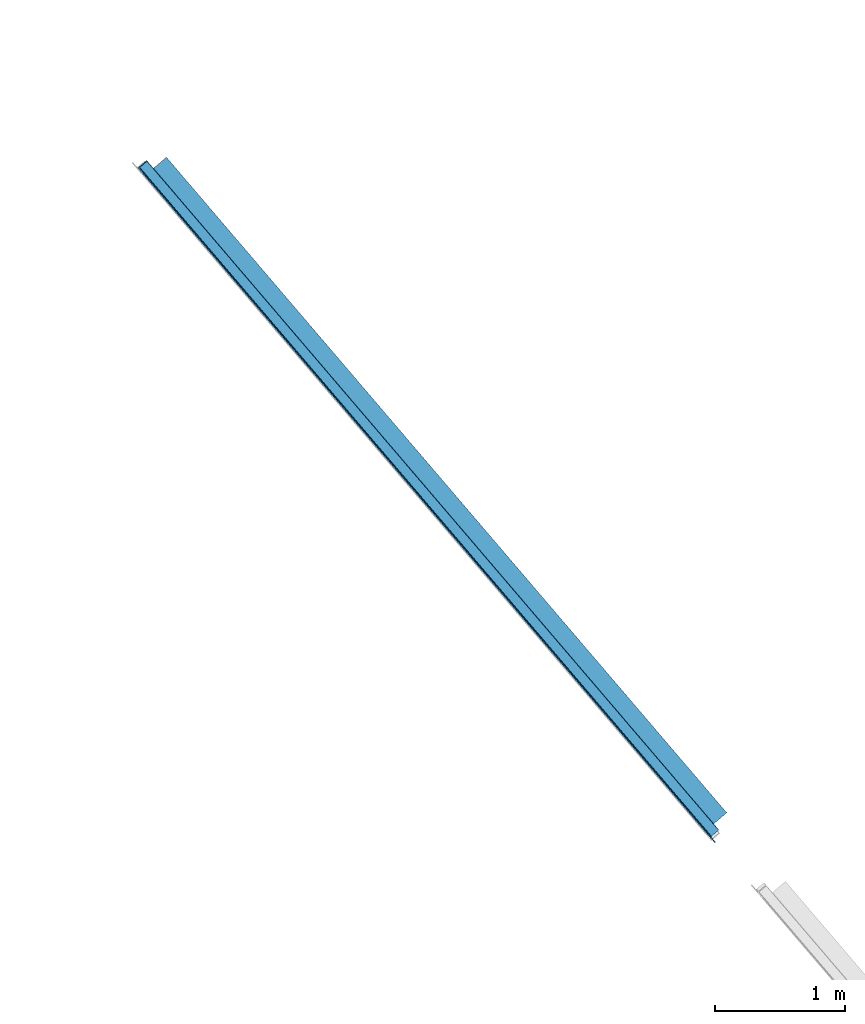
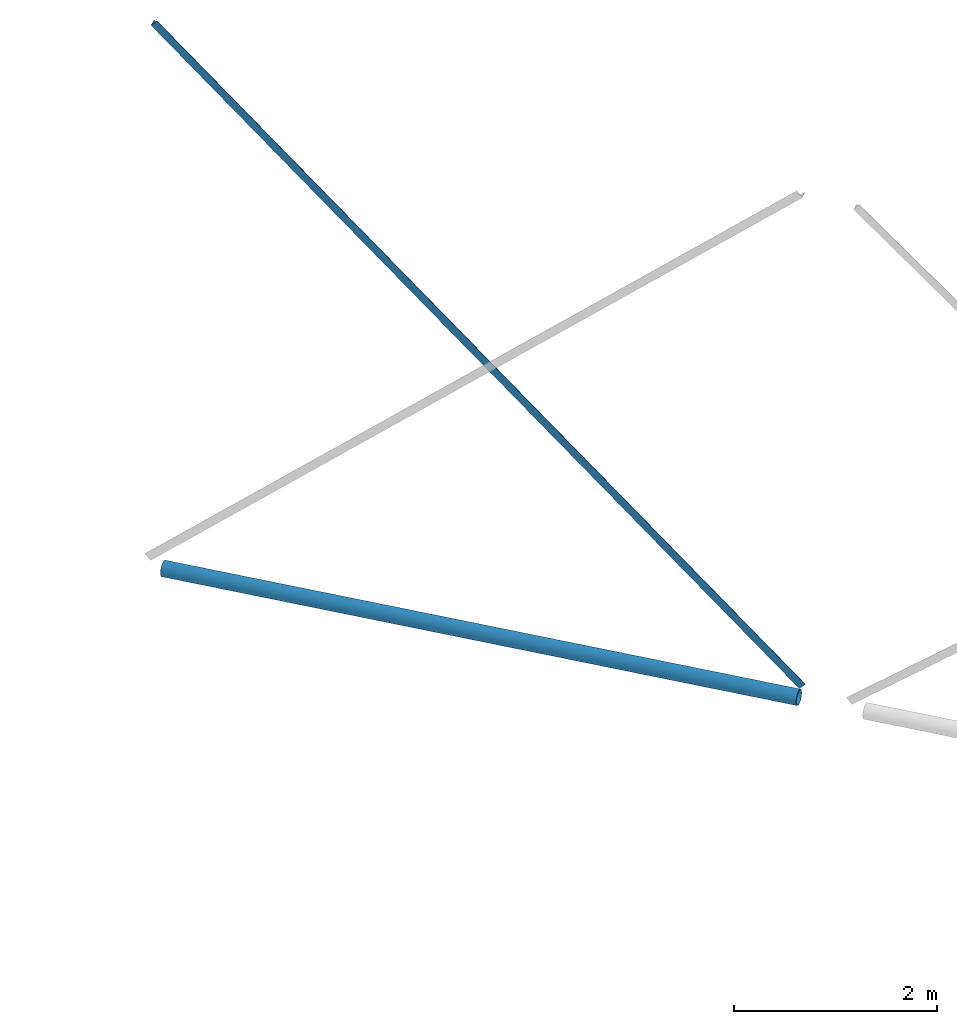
# One storey, part 6 of 6: 2 beams.
"""IFC2X3 building model written with IfcOpenShell, lengths in millimetres."""

from ifc_helpers import new_model, entity, si_unit, converted_unit, derived_unit, direction, frame, frame_2d, origin, origin_2d_with_axis, place, context, subcontext, project, spatial, polyline, circle_curve, parameter, trimmed, segment, composite_curve, hollow_circle, outline, extrude, material, type_object, element, save


model = new_model("IFC2X3")

# Units and contexts
model_context = context("Model", 3, precision=0.01, world=origin(), true_north=direction((6.123031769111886e-17, 1.0)))
body_context = subcontext(model_context, "Body", "Model", "MODEL_VIEW")
ifc_project = project(units=[si_unit("LENGTHUNIT", "METRE", prefix="MILLI"), si_unit("AREAUNIT", "SQUARE_METRE"), si_unit("VOLUMEUNIT", "CUBIC_METRE"), converted_unit("PLANEANGLEUNIT", "DEGREE", entity("IfcRatioMeasure", 0.017453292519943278), si_unit("PLANEANGLEUNIT", "RADIAN"), dimensions=[0, 0, 0, 0, 0, 0, 0]), si_unit("MASSUNIT", "GRAM", prefix="KILO"), derived_unit("MASSDENSITYUNIT", [(si_unit("MASSUNIT", "GRAM", prefix="KILO"), 1), (si_unit("LENGTHUNIT", "METRE"), -3)]), derived_unit("MOMENTOFINERTIAUNIT", [(si_unit("LENGTHUNIT", "METRE"), 4)]), si_unit("TIMEUNIT", "SECOND"), si_unit("FREQUENCYUNIT", "HERTZ"), si_unit("THERMODYNAMICTEMPERATUREUNIT", "DEGREE_CELSIUS"), derived_unit("THERMALTRANSMITTANCEUNIT", [(si_unit("MASSUNIT", "GRAM", prefix="KILO"), 1), (si_unit("THERMODYNAMICTEMPERATUREUNIT", "KELVIN"), -1), (si_unit("TIMEUNIT", "SECOND"), -3)]), derived_unit("VOLUMETRICFLOWRATEUNIT", [(si_unit("LENGTHUNIT", "METRE"), 3), (si_unit("TIMEUNIT", "SECOND"), -1)]), derived_unit("MASSFLOWRATEUNIT", [(si_unit("MASSUNIT", "GRAM", prefix="KILO"), 1), (si_unit("TIMEUNIT", "SECOND"), -1)]), derived_unit("ROTATIONALFREQUENCYUNIT", [(si_unit("TIMEUNIT", "SECOND"), -1)]), si_unit("ELECTRICCURRENTUNIT", "AMPERE"), si_unit("ELECTRICVOLTAGEUNIT", "VOLT"), si_unit("POWERUNIT", "WATT"), si_unit("FORCEUNIT", "NEWTON", prefix="KILO"), si_unit("ILLUMINANCEUNIT", "LUX"), si_unit("LUMINOUSFLUXUNIT", "LUMEN"), si_unit("LUMINOUSINTENSITYUNIT", "CANDELA"), derived_unit("USERDEFINED", [(si_unit("MASSUNIT", "GRAM", prefix="KILO"), -1), (si_unit("LENGTHUNIT", "METRE"), -2), (si_unit("TIMEUNIT", "SECOND"), 3), (si_unit("LUMINOUSFLUXUNIT", "LUMEN"), 1)]), derived_unit("SOUNDPOWERUNIT", [(si_unit("MASSUNIT", "GRAM", prefix="KILO"), 1), (si_unit("LENGTHUNIT", "METRE"), 2), (si_unit("TIMEUNIT", "SECOND"), -3)]), derived_unit("LINEARVELOCITYUNIT", [(si_unit("LENGTHUNIT", "METRE"), 1), (si_unit("TIMEUNIT", "SECOND"), -1)]), si_unit("PRESSUREUNIT", "PASCAL"), derived_unit("USERDEFINED", [(si_unit("LENGTHUNIT", "METRE"), -2), (si_unit("MASSUNIT", "GRAM", prefix="KILO"), 1), (si_unit("TIMEUNIT", "SECOND"), -2)]), derived_unit("LINEARFORCEUNIT", [(si_unit("MASSUNIT", "GRAM", prefix="KILO"), 1), (si_unit("LENGTHUNIT", "METRE"), 1), (si_unit("TIMEUNIT", "SECOND"), -2), (si_unit("LENGTHUNIT", "METRE"), -1)]), derived_unit("PLANARFORCEUNIT", [(si_unit("MASSUNIT", "GRAM", prefix="KILO"), 1), (si_unit("LENGTHUNIT", "METRE"), 1), (si_unit("TIMEUNIT", "SECOND"), -2), (si_unit("LENGTHUNIT", "METRE"), -2)])], contexts=[model_context])

# Site, building, storey
site_placement = place(None, frame((962.4174930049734, -6014.433753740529, 0.0), z_axis=(0.0, 0.0, 1.0), x_axis=(0.7601792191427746, 0.649713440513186, 0.0)))
site = spatial("IfcSite", under=ifc_project, at=site_placement, Name="Default", CompositionType="ELEMENT")
building_placement = place(site_placement, origin())
building = spatial("IfcBuilding", under=site, at=building_placement, CompositionType="ELEMENT")
storey_placement = place(building_placement, frame((0.0, 0.0, 8925.0)))
storey = spatial("IfcBuildingStorey", under=building, at=storey_placement, Name="TOP OF PLANT ROOM", CompositionType="ELEMENT", Elevation=8925.000000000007)

# Beams
ifc_material = material(Name="Metal - Steel - 300 MPa")
beam_type_1 = type_object("IfcBeamType", Name="ADSK_AU_CHS-Circular Hollow Sections (AS 1163_C350):168.3x6.4CHS", PredefinedType="NOTDEFINED")
beam_1_placement = place(storey_placement, frame((185792.0602047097, -11387.178082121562, -3085.8499999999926), z_axis=(0.0, 0.0, 1.0), x_axis=(0.0, 1.0, 0.0)))
element("IfcBeam", 1, at=beam_1_placement, inside=storey, type_object=beam_type_1, material=ifc_material, Name="ADSK_AU_CHS-Circular Hollow Sections (AS 1163_C350):168.3x6.4CHS", ObjectType="ADSK_AU_CHS-Circular Hollow Sections (AS 1163_C350):168.3x6.4CHS", context=body_context, shape_type="SweptSolid", body=[
    extrude(hollow_circle(Radius=84.15000000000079, WallThickness=6.4000000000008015, at=origin_2d_with_axis()), frame((513.9374999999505, 0.0, -84.15000000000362), z_axis=(1.0, 0.0, 0.0), x_axis=(0.0, 1.0, 0.0)), (0.0, 0.0, 1.0), 6657.099999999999),
])
beam_type_2 = type_object("IfcBeamType", Name="ADSK_AU_EA-Equal Angles (AS 3679_1):90x90x10EA", PredefinedType="NOTDEFINED")
beam_2_placement = place(storey_placement, frame((185679.26020470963, -4138.804676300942, 3570.3059944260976), z_axis=(0.0, -0.6864414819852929, 0.7271850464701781), x_axis=(0.0, -0.7271850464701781, -0.6864414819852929)))
element("IfcBeam", 2, at=beam_2_placement, inside=storey, type_object=beam_type_2, material=ifc_material, Name="ADSK_AU_EA-Equal Angles (AS 3679_1):90x90x10EA", ObjectType="ADSK_AU_EA-Equal Angles (AS 3679_1):90x90x10EA", context=body_context, shape_type="SweptSolid", body=[
    extrude(outline(composite_curve([segment(polyline([(-55.777777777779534, -34.222222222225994), (34.22222222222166, -34.222222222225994)]), True, "CONTINUOUS"), segment(polyline([(34.22222222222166, -34.222222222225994), (34.22222222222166, 55.777777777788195)]), True, "CONTINUOUS"), segment(polyline([(34.222222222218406, 55.777777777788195), (29.222222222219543, 55.777777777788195)]), True, "CONTINUOUS"), segment(trimmed(circle_curve(frame_2d((29.222222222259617, 50.77777777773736), x_axis=(0.0, 1.0)), 5.000000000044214), [parameter(0.0)], [parameter(89.99999999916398)], True, "PARAMETER"), True, "CONTINUOUS"), segment(polyline([(24.22222222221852, 50.77777777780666), (24.22222222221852, -16.222222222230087)]), True, "CONTINUOUS"), segment(trimmed(circle_curve(frame_2d((16.22222222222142, -16.222222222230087), x_axis=(1.0, 0.0)), 7.999999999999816), [parameter(269.9999999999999)], [parameter(0.0)], True, "PARAMETER"), False, "CONTINUOUS"), segment(polyline([(16.22222222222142, -24.222222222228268), (-50.77777777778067, -24.222222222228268)]), True, "CONTINUOUS"), segment(trimmed(circle_curve(frame_2d((-50.77777777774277, -29.222222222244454), x_axis=(0.0, 1.0)), 5.000000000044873), [parameter(0.0)], [parameter(89.99999999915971)], True, "PARAMETER"), True, "CONTINUOUS"), segment(polyline([(-55.777777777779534, -29.2222222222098), (-55.777777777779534, -34.222222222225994)]), True, "CONTINUOUS")], self_intersect=False)), frame((81.11555321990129, 8.522222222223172, -55.777777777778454), z_axis=(1.0, 0.0, 0.0), x_axis=(0.0, 0.0, -1.0)), (0.0, 0.0, 1.0), 9338.8844467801),
])

save(model, "model.ifc")
